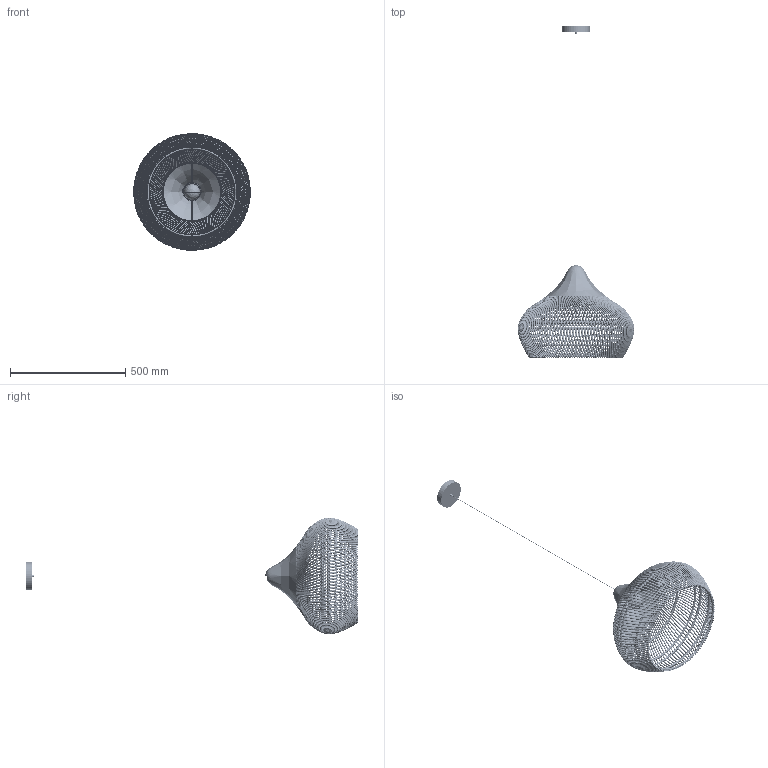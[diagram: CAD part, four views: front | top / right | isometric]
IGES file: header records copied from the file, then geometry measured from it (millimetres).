
Start section: SolidWorks IGES file using analytic representation for surfaces
Global section: file name: F:\燠隴矨\3D\2024-12堎\Braided Rattan Pendant Lamp-Model C-D50xH40cm .IGS,  1; native system: 5HSolidWorks 2022; preprocessor: SolidWorks 2022; author: MyPC; date: 241202.210639; units: millimetre
Bounding box: 505.88 x 1437.39 x 505.88 mm (x, y, z)
Surface area: 1232780 mm2 (no closed solid volume)
Topology: 0 solids, 0 shells, 545 faces, 9549 edges, 9548 vertices
Faces by surface type: bspline 521, revolution 24
